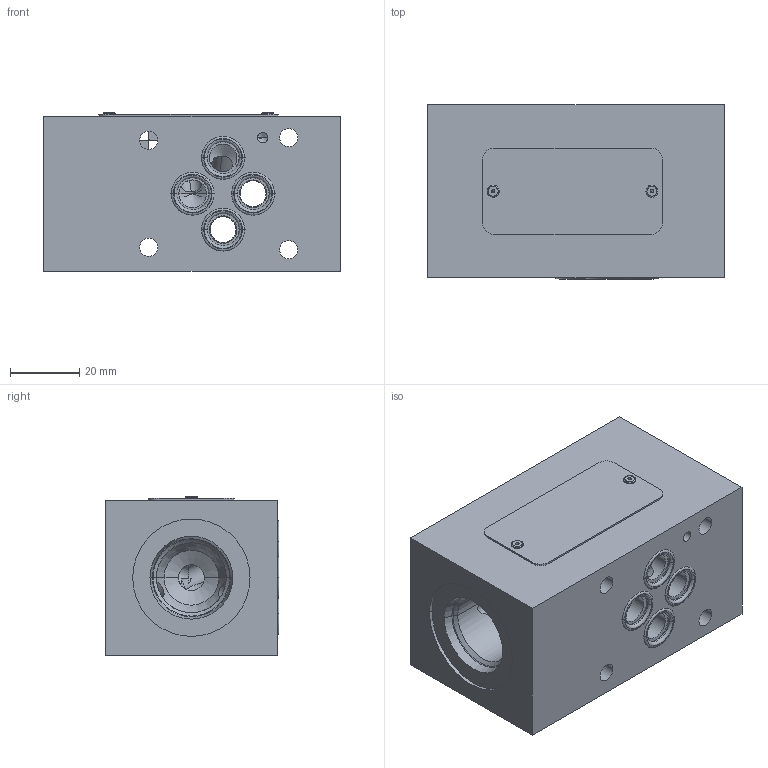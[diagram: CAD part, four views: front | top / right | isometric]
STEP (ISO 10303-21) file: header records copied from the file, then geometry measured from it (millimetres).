
FILE_DESCRIPTION((''),'2;1');
FILE_NAME('30003600_ASM','2023-10-12T',('l.soukupova'),(''),'PRO/ENGINEER BY PARAMETRIC TECHNOLOGY CORPORATION, 2015440','PRO/ENGINEER BY PARAMETRIC TECHNOLOGY CORPORATION, 2015440','');
FILE_SCHEMA(('AUTOMOTIVE_DESIGN { 1 0 10303 214 1 1 1 1 }'));
Length unit declared in the file: millimetre
Products named in the file (8): 30003502; RD_LABEL_25X52_159703; ORAR00012_201524_AF0; ORAR00012_201524_AF1; ORAR00012_201524_AF2; ORAR00012_201524_AF3; AF_1932_16485; 30003600_ASM
Assembly tree (8 placements, depth 2):
  30003600_ASM
    30003502
    RD_LABEL_25X52_159703
    ORAR00012_201524_AF0
    ORAR00012_201524_AF1
    ORAR00012_201524_AF2
    ORAR00012_201524_AF3
    AF_1932_16485  x2
Bounding box: 86 x 50.38 x 46 mm (x, y, z)
Volume: 168171.4 mm3; surface area: 36270.8 mm2
Topology: 8 solids, 11 shells, 203 faces, 616 edges, 509 vertices
Faces by surface type: cylinder 99, torus 36, plane 34, cone 34
Entity records: 10471 total; most frequent: CARTESIAN_POINT 2375, DIRECTION 1289, ORIENTED_EDGE 894, AXIS2_PLACEMENT_3D 524, EDGE_CURVE 453, PRESENTATION_STYLE_ASSIGNMENT 447, STYLED_ITEM 377, CURVE_STYLE 317
